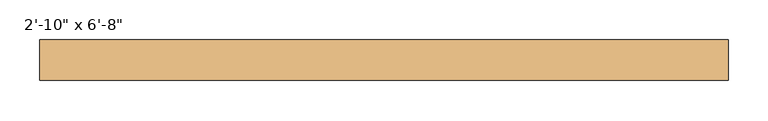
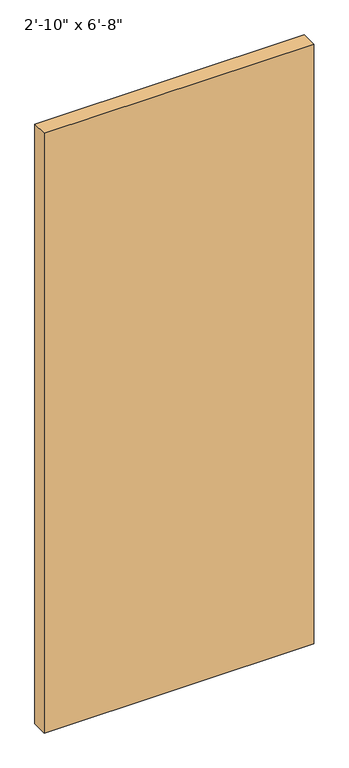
"""IFC4 building model written with IfcOpenShell, lengths in millimetres: door geometry."""

from ifc_helpers import new_model, si_unit, origin, origin_with_axes, place, context, project, spatial, polyline, outline, extrude, source, transform, mapped, element, save


def door_e2299fe2(model_context):
    return source(origin(), model_context, "Body", "SweptSolid", [
        extrude(outline(polyline([(431.8, 25.2), (-431.8, 25.2), (-431.8, 76.2), (431.8, 76.2), (431.8, 25.2)])), origin_with_axes(), (0.0, 0.0, 1.0), 2032.0),
    ])


if __name__ == "__main__":
    model = new_model("IFC4")
    model_context = context("Model", 3, world=origin())
    ifc_project = project(units=[si_unit("LENGTHUNIT", "METRE", prefix="MILLI")], contexts=[model_context])
    site = spatial("IfcSite", under=ifc_project)
    building = spatial("IfcBuilding", under=site)
    placement = place(None, origin())
    door_shape = door_e2299fe2(model_context)
    element("IfcDoor", 1, ObjectType="Planitar - Single Door_Flush Panel : 2'-10\" x 6'-8\"", at=placement, inside=building, context=model_context, shape_type="MappedRepresentation", body=[
        mapped(door_shape, transform((0.0, 0.0, 0.0), x_axis=(1.0, 0.0, 0.0), y_axis=(0.0, 1.0, 0.0), z_axis=(0.0, 0.0, 1.0))),
    ])
    save(model, "model.ifc")
